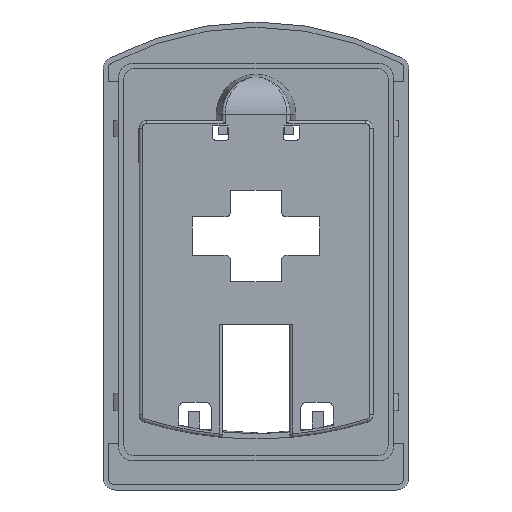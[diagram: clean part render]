
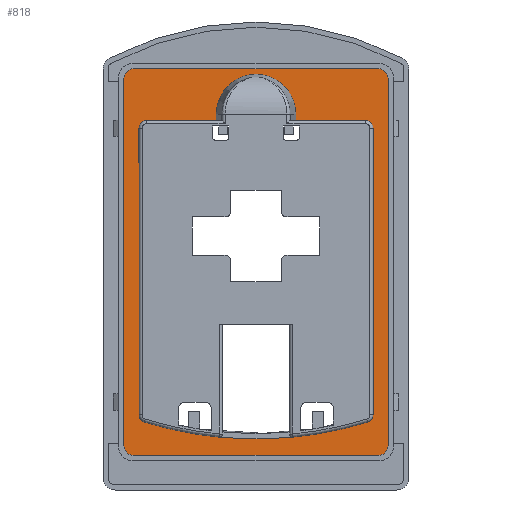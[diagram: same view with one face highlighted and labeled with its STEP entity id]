
A CAD part, left-side view. The second image highlights one B-rep face of the part: STEP entity #818.
In plain terms, the highlighted planar face has unit normal (-1, 0, 0).
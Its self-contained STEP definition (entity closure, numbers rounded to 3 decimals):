
#818=ADVANCED_FACE('',(#2766,#2768),#2770,.T.);
#2766=FACE_BOUND('',#2767,.T.);
#2767=EDGE_LOOP('',(#5283,#5284,#5285,#5286,#5287,#5288,#5289,#5290));
#2768=FACE_BOUND('',#2769,.T.);
#2769=EDGE_LOOP('',(#5291,#5292,#5293,#5294,#5295,#5296,#5297,#5298,#5299,#5300,
#5301,#5302));
#2770=PLANE('',#2771);
#2771=AXIS2_PLACEMENT_3D('',#2772,#2773,#2774);
#2772=CARTESIAN_POINT('',(2.,0.,0.));
#2773=DIRECTION('',(-1.,0.,0.));
#2774=DIRECTION('',(0.,-1.,0.));
#5283=ORIENTED_EDGE('',*,*,#6353,.T.);
#5284=ORIENTED_EDGE('',*,*,#6354,.T.);
#5285=ORIENTED_EDGE('',*,*,#6355,.T.);
#5286=ORIENTED_EDGE('',*,*,#6356,.T.);
#5287=ORIENTED_EDGE('',*,*,#6357,.T.);
#5288=ORIENTED_EDGE('',*,*,#6358,.T.);
#5289=ORIENTED_EDGE('',*,*,#6359,.T.);
#5290=ORIENTED_EDGE('',*,*,#6360,.T.);
#5291=ORIENTED_EDGE('',*,*,#6361,.F.);
#5292=ORIENTED_EDGE('',*,*,#6362,.F.);
#5293=ORIENTED_EDGE('',*,*,#6363,.F.);
#5294=ORIENTED_EDGE('',*,*,#6364,.F.);
#5295=ORIENTED_EDGE('',*,*,#6365,.F.);
#5296=ORIENTED_EDGE('',*,*,#6366,.F.);
#5297=ORIENTED_EDGE('',*,*,#6244,.F.);
#5298=ORIENTED_EDGE('',*,*,#6352,.F.);
#5299=ORIENTED_EDGE('',*,*,#6367,.F.);
#5300=ORIENTED_EDGE('',*,*,#6368,.F.);
#5301=ORIENTED_EDGE('',*,*,#6369,.F.);
#5302=ORIENTED_EDGE('',*,*,#6370,.F.);
#6244=EDGE_CURVE('',#7040,#7042,#7043,.T.);
#6352=EDGE_CURVE('',#7196,#7040,#7198,.T.);
#6353=EDGE_CURVE('',#7199,#7200,#7201,.T.);
#6354=EDGE_CURVE('',#7200,#7202,#7203,.T.);
#6355=EDGE_CURVE('',#7202,#7204,#7205,.T.);
#6356=EDGE_CURVE('',#7204,#7206,#7207,.T.);
#6357=EDGE_CURVE('',#7206,#7208,#7209,.T.);
#6358=EDGE_CURVE('',#7208,#7210,#7211,.T.);
#6359=EDGE_CURVE('',#7210,#7212,#7213,.T.);
#6360=EDGE_CURVE('',#7212,#7199,#7214,.T.);
#6361=EDGE_CURVE('',#7215,#7216,#7217,.T.);
#6362=EDGE_CURVE('',#7218,#7215,#7219,.T.);
#6363=EDGE_CURVE('',#7220,#7218,#7221,.T.);
#6364=EDGE_CURVE('',#7222,#7220,#7223,.T.);
#6365=EDGE_CURVE('',#7224,#7222,#7225,.T.);
#6366=EDGE_CURVE('',#7042,#7224,#7226,.T.);
#6367=EDGE_CURVE('',#7227,#7196,#7228,.T.);
#6368=EDGE_CURVE('',#7229,#7227,#7230,.T.);
#6369=EDGE_CURVE('',#7231,#7229,#7232,.T.);
#6370=EDGE_CURVE('',#7216,#7231,#7233,.T.);
#7040=VERTEX_POINT('',#8623);
#7042=VERTEX_POINT('',#8627);
#7043=CIRCLE('',#8628,123.681);
#7196=VERTEX_POINT('',#9322);
#7198=CIRCLE('',#9326,2.5);
#7199=VERTEX_POINT('',#9330);
#7200=VERTEX_POINT('',#9331);
#7201=CIRCLE('',#9332,3.2);
#7202=VERTEX_POINT('',#9336);
#7203=LINE('',#9337,#9338);
#7204=VERTEX_POINT('',#9340);
#7205=CIRCLE('',#9341,3.2);
#7206=VERTEX_POINT('',#9345);
#7207=LINE('',#9346,#9347);
#7208=VERTEX_POINT('',#9349);
#7209=CIRCLE('',#9350,3.2);
#7210=VERTEX_POINT('',#9354);
#7211=LINE('',#9355,#9356);
#7212=VERTEX_POINT('',#9358);
#7213=CIRCLE('',#9359,3.2);
#7214=LINE('',#9363,#9364);
#7215=VERTEX_POINT('',#9366);
#7216=VERTEX_POINT('',#9367);
#7217=CIRCLE('',#9368,13.);
#7218=VERTEX_POINT('',#9372);
#7219=LINE('',#9373,#9374);
#7220=VERTEX_POINT('',#9376);
#7221=LINE('',#9377,#9378);
#7222=VERTEX_POINT('',#9380);
#7223=CIRCLE('',#9381,2.5);
#7224=VERTEX_POINT('',#9385);
#7225=LINE('',#9386,#9387);
#7226=CIRCLE('',#9389,2.5);
#7227=VERTEX_POINT('',#9393);
#7228=LINE('',#9394,#9395);
#7229=VERTEX_POINT('',#9397);
#7230=CIRCLE('',#9398,2.5);
#7231=VERTEX_POINT('',#9402);
#7232=LINE('',#9403,#9404);
#7233=LINE('',#9406,#9407);
#8623=CARTESIAN_POINT('',(2.,36.488,-54.295));
#8627=CARTESIAN_POINT('',(2.,-36.488,-54.295));
#8628=AXIS2_PLACEMENT_3D('',#8629,#8630,#8631);
#8629=CARTESIAN_POINT('',(2.,0.,63.881));
#8630=DIRECTION('',(-1.,0.,0.));
#8631=DIRECTION('',(0.,0.295,-0.955));
#9322=CARTESIAN_POINT('',(2.,38.25,-51.907));
#9326=AXIS2_PLACEMENT_3D('',#9327,#9328,#9329);
#9327=CARTESIAN_POINT('',(2.,35.75,-51.907));
#9328=DIRECTION('',(-1.,0.,0.));
#9329=DIRECTION('',(0.,1.,0.));
#9330=CARTESIAN_POINT('',(2.,-40.,-65.2));
#9331=CARTESIAN_POINT('',(2.,-43.2,-62.));
#9332=AXIS2_PLACEMENT_3D('',#9333,#9334,#9335);
#9333=CARTESIAN_POINT('',(2.,-40.,-62.));
#9334=DIRECTION('',(-1.,0.,0.));
#9335=DIRECTION('',(0.,0.,-1.));
#9336=CARTESIAN_POINT('',(2.,-43.2,58.));
#9337=CARTESIAN_POINT('',(2.,-43.2,-62.));
#9338=VECTOR('',#9339,1.);
#9339=DIRECTION('',(0.,0.,1.));
#9340=CARTESIAN_POINT('',(2.,-40.,61.2));
#9341=AXIS2_PLACEMENT_3D('',#9342,#9343,#9344);
#9342=CARTESIAN_POINT('',(2.,-40.,58.));
#9343=DIRECTION('',(-1.,0.,0.));
#9344=DIRECTION('',(0.,-1.,0.));
#9345=CARTESIAN_POINT('',(2.,40.,61.2));
#9346=CARTESIAN_POINT('',(2.,-40.,61.2));
#9347=VECTOR('',#9348,1.);
#9348=DIRECTION('',(0.,1.,0.));
#9349=CARTESIAN_POINT('',(2.,43.2,58.));
#9350=AXIS2_PLACEMENT_3D('',#9351,#9352,#9353);
#9351=CARTESIAN_POINT('',(2.,40.,58.));
#9352=DIRECTION('',(-1.,0.,0.));
#9353=DIRECTION('',(0.,0.,1.));
#9354=CARTESIAN_POINT('',(2.,43.2,-62.));
#9355=CARTESIAN_POINT('',(2.,43.2,58.));
#9356=VECTOR('',#9357,1.);
#9357=DIRECTION('',(0.,0.,-1.));
#9358=CARTESIAN_POINT('',(2.,40.,-65.2));
#9359=AXIS2_PLACEMENT_3D('',#9360,#9361,#9362);
#9360=CARTESIAN_POINT('',(2.,40.,-62.));
#9361=DIRECTION('',(-1.,0.,0.));
#9362=DIRECTION('',(0.,1.,0.));
#9363=CARTESIAN_POINT('',(2.,40.,-65.2));
#9364=VECTOR('',#9365,1.);
#9365=DIRECTION('',(0.,-1.,0.));
#9366=CARTESIAN_POINT('',(2.,-13.,46.4));
#9367=CARTESIAN_POINT('',(2.,13.,46.4));
#9368=AXIS2_PLACEMENT_3D('',#9369,#9370,#9371);
#9369=CARTESIAN_POINT('',(2.,0.,46.4));
#9370=DIRECTION('',(-1.,0.,0.));
#9371=DIRECTION('',(0.,-1.,0.));
#9372=CARTESIAN_POINT('',(2.,-13.,44.3));
#9373=CARTESIAN_POINT('',(2.,-13.,44.3));
#9374=VECTOR('',#9375,1.);
#9375=DIRECTION('',(0.,0.,1.));
#9376=CARTESIAN_POINT('',(2.,-35.75,44.3));
#9377=CARTESIAN_POINT('',(2.,-35.75,44.3));
#9378=VECTOR('',#9379,1.);
#9379=DIRECTION('',(0.,1.,0.));
#9380=CARTESIAN_POINT('',(2.,-38.25,41.8));
#9381=AXIS2_PLACEMENT_3D('',#9382,#9383,#9384);
#9382=CARTESIAN_POINT('',(2.,-35.75,41.8));
#9383=DIRECTION('',(-1.,0.,0.));
#9384=DIRECTION('',(0.,-1.,0.));
#9385=CARTESIAN_POINT('',(2.,-38.25,-51.907));
#9386=CARTESIAN_POINT('',(2.,-38.25,-51.907));
#9387=VECTOR('',#9388,1.);
#9388=DIRECTION('',(0.,0.,1.));
#9389=AXIS2_PLACEMENT_3D('',#9390,#9391,#9392);
#9390=CARTESIAN_POINT('',(2.,-35.75,-51.907));
#9391=DIRECTION('',(-1.,0.,0.));
#9392=DIRECTION('',(0.,-0.295,-0.955));
#9393=CARTESIAN_POINT('',(2.,38.25,41.8));
#9394=CARTESIAN_POINT('',(2.,38.25,41.8));
#9395=VECTOR('',#9396,1.);
#9396=DIRECTION('',(0.,0.,-1.));
#9397=CARTESIAN_POINT('',(2.,35.75,44.3));
#9398=AXIS2_PLACEMENT_3D('',#9399,#9400,#9401);
#9399=CARTESIAN_POINT('',(2.,35.75,41.8));
#9400=DIRECTION('',(-1.,0.,0.));
#9401=DIRECTION('',(0.,0.,1.));
#9402=CARTESIAN_POINT('',(2.,13.,44.3));
#9403=CARTESIAN_POINT('',(2.,13.,44.3));
#9404=VECTOR('',#9405,1.);
#9405=DIRECTION('',(0.,1.,0.));
#9406=CARTESIAN_POINT('',(2.,13.,46.4));
#9407=VECTOR('',#9408,1.);
#9408=DIRECTION('',(0.,0.,-1.));
